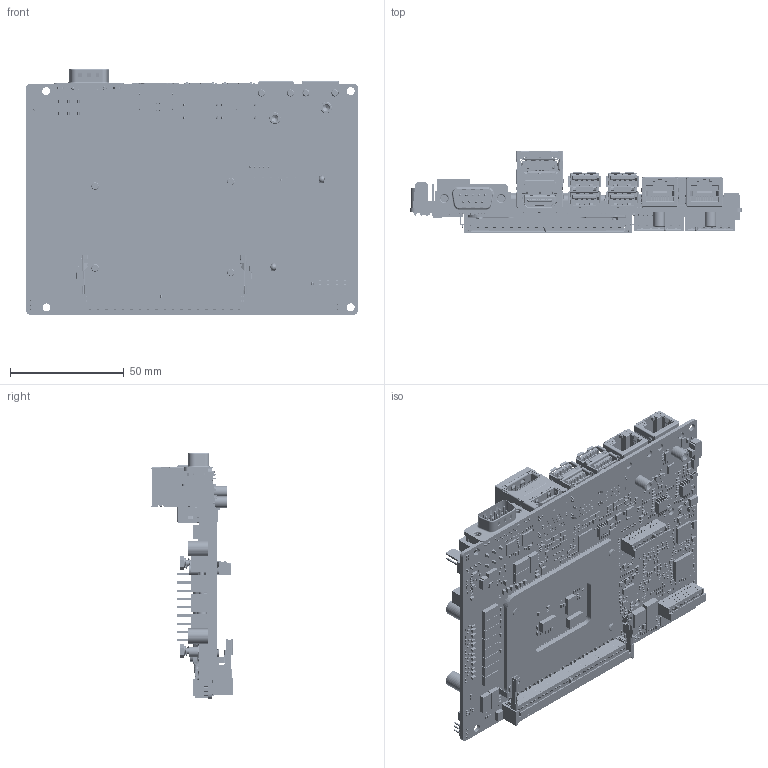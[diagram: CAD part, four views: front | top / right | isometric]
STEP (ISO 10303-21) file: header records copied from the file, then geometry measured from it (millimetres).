
FILE_DESCRIPTION((''),'2;1');
FILE_NAME('0-ECM-ADLS_ASM','2023-05-25T17:04:00',('isaac_lin'),(''),'CREO PARAMETRIC BY PTC INC, 2022284','CREO PARAMETRIC BY PTC INC, 2022284','');
FILE_SCHEMA(('CONFIG_CONTROL_DESIGN'));
Products named in the file (168): ECM-ADLS; SKTV_PIN_06042019_2_1; SKTV_500UM_BALL_2_1; 19WW23-SKTV-PNP-CAP-REFERENCE_1; LGA1700_DG07_06172020_1; K72926-C_LGA1700_DGP7_ASM_1_ASM; K26723_R01_TEST-VEHICLE_1; K62902-003_1; K62889-003_1; K62882-003_ASM_1_ASM; K62903-002_1; K75296-003_1; K75575-003_ASM_1_ASM; K62866-003_ASM_1_ASM; K62916-001_1; K62938-002_1; K62915-002_ASM_1_ASM; K62914-003_1; K62907-002_ASM_1_ASM; K95976-002_ASM_1_ASM; K62832-002_1; K62843-002_1; K62844-002_ASM_1_ASM; K94071-001_ASM_1_ASM; K62851-003_ASM_1_ASM; LGA1700_OEM-STACK_R1P0_ASSY_ASM_ASM; E168XH00000H-LGA1700_ADL-CPU_ASM; ALDER-LAKE-PCH; ALDER-LAKE-PCH_ASM; E16A38D140DH; DDR5-SOCKET-H9_2_ASM; E1664410000R; S28-0000X3-XXXX-10PIN_ASM; E1662510201H; E16BB671031H; E16BB671033H; E193A3306X1R; E1613620001R; E16F1439030H; E14S3506900H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
Assembly tree (2916 placements, depth 8):
  0-ECM-ADLS_ASM
    ECM-ADLS
    E168XH00000H-LGA1700_ADL-CPU_ASM
      LGA1700_OEM-STACK_R1P0_ASSY_ASM_ASM
        K72926-C_LGA1700_DGP7_ASM_1_ASM
          SKTV_PIN_06042019_2_1  x22
          SKTV_500UM_BALL_2_1  x21
          19WW23-SKTV-PNP-CAP-REFERENCE_1
          LGA1700_DG07_06172020_1
        K26723_R01_TEST-VEHICLE_1
        K62851-003_ASM_1_ASM
          K95976-002_ASM_1_ASM
            K62866-003_ASM_1_ASM
              K62882-003_ASM_1_ASM
                K62902-003_1
                K62889-003_1
              K75575-003_ASM_1_ASM
                K62903-002_1
                K75296-003_1  x2
            K62907-002_ASM_1_ASM
              K62915-002_ASM_1_ASM
                K62916-001_1
                K62938-002_1
              K62914-003_1
          K94071-001_ASM_1_ASM
            K62844-002_ASM_1_ASM
              K62832-002_1
              K62843-002_1
    ALDER-LAKE-PCH_ASM
      ALDER-LAKE-PCH
    DDR5-SOCKET-H9_2_ASM
      E16A38D140DH
    E1664410000R
    S28-0000X3-XXXX-10PIN_ASM  x2
    E1662510201H
    E16BB671031H
    E16BB671033H
    E193A3306X1R  x2
    E1613620001R
    ECM-ADLS_M_ASM
      E16F1439030H
      E14S3506900H
      E16E0096100R
      E1667320301R
      A-C1206  x2
      E1613320001R
      E1613310000R
      E1305009940H
      E14S4961700H
      E14S3088803H
      E14S5F00801H  x2
      E1060700002H  x16
      E0030100001
      E1752511005H
      E0030100005  x14
      E0030100000  x8
      E1301034041H  x4
      E11274101A0H-M1  x22
      E14S6225252H
      E1213103003H
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Bounding box: 146.05 x 36.05 x 108.1 mm (x, y, z)
Volume: 85691 mm3; surface area: 155601.4 mm2
Topology: 2948 solids, 3226 shells, 59787 faces, 207472 edges, 182235 vertices
Faces by surface type: plane 49448, cylinder 9230, bspline 492, torus 211, sphere 207, extrusion 127, cone 72
Entity records: 1458845 total; most frequent: CARTESIAN_POINT 288294, DIRECTION 258374, ORIENTED_EDGE 186927, VECTOR 110178, LINE 110081, EDGE_CURVE 93536, AXIS2_PLACEMENT_3D 74098, VERTEX_POINT 61074
